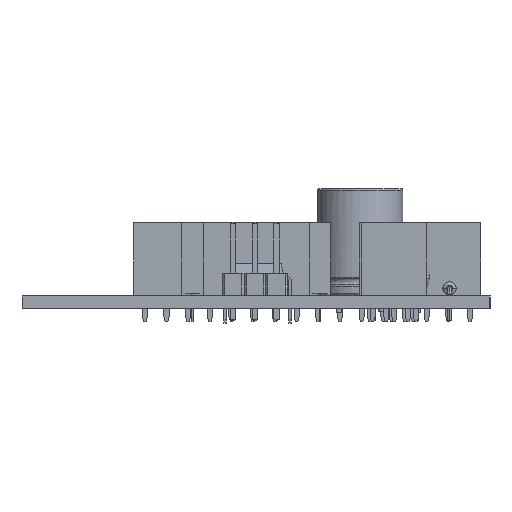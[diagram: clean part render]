
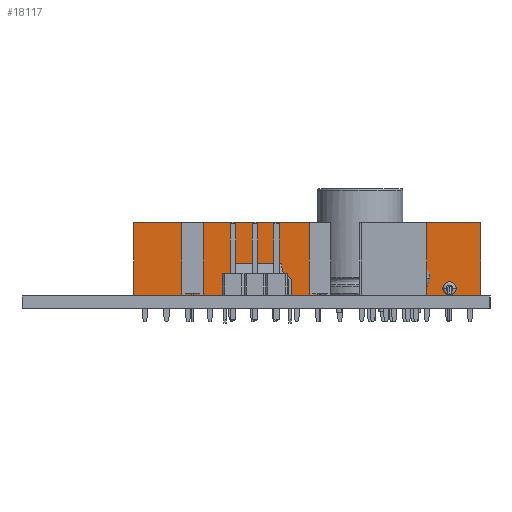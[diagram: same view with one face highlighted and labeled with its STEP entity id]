
A CAD part, left-side view. The second image highlights one B-rep face of the part: STEP entity #18117.
In plain terms, the highlighted planar face has unit normal (-1, 0, 0).
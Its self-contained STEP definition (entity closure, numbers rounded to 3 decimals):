
#158 = EDGE_CURVE ( 'NONE', #32644, #5833, #338, .T. ) ;
#338 = LINE ( 'NONE', #12416, #23090 ) ;
#1378 = VECTOR ( 'NONE', #36957, 1000. ) ;
#2709 = DIRECTION ( 'NONE',  ( 0., 0., 1. ) ) ;
#3169 = VECTOR ( 'NONE', #36461, 1000. ) ;
#5153 = CARTESIAN_POINT ( 'NONE',  ( -1.27, 1.27, 0. ) ) ;
#5833 = VERTEX_POINT ( 'NONE', #8177 ) ;
#6808 = CARTESIAN_POINT ( 'NONE',  ( -1.27, -39.37, 8.5 ) ) ;
#7598 = ORIENTED_EDGE ( 'NONE', *, *, #15676, .T. ) ;
#8177 = CARTESIAN_POINT ( 'NONE',  ( -1.27, 1.27, 8.5 ) ) ;
#8974 = AXIS2_PLACEMENT_3D ( 'NONE', #5153, #19429, #17213 ) ;
#9122 = EDGE_CURVE ( 'NONE', #5833, #14214, #20068, .T. ) ;
#11091 = VERTEX_POINT ( 'NONE', #24941 ) ;
#12416 = CARTESIAN_POINT ( 'NONE',  ( -1.27, 1.27, 0. ) ) ;
#14214 = VERTEX_POINT ( 'NONE', #6808 ) ;
#15676 = EDGE_CURVE ( 'NONE', #11091, #14214, #36252, .T. ) ;
#17213 = DIRECTION ( 'NONE',  ( 0., -1., 0. ) ) ;
#17893 = CARTESIAN_POINT ( 'NONE',  ( -1.27, 1.27, 0. ) ) ;
#18117 = ADVANCED_FACE ( 'NONE', ( #22593 ), #38003, .F. ) ;
#18128 = CARTESIAN_POINT ( 'NONE',  ( -1.27, 1.27, 0. ) ) ;
#19200 = EDGE_LOOP ( 'NONE', ( #31280, #7598, #34134, #34694 ) ) ;
#19429 = DIRECTION ( 'NONE',  ( 1., 0., 0. ) ) ;
#19872 = CARTESIAN_POINT ( 'NONE',  ( -1.27, 1.27, 8.5 ) ) ;
#20068 = LINE ( 'NONE', #19872, #1378 ) ;
#20859 = EDGE_CURVE ( 'NONE', #32644, #11091, #33167, .T. ) ;
#21218 = CARTESIAN_POINT ( 'NONE',  ( -1.27, -39.37, 0. ) ) ;
#22593 = FACE_OUTER_BOUND ( 'NONE', #19200, .T. ) ;
#23090 = VECTOR ( 'NONE', #2709, 1000. ) ;
#24941 = CARTESIAN_POINT ( 'NONE',  ( -1.27, -39.37, 0. ) ) ;
#30195 = DIRECTION ( 'NONE',  ( 0., -1., 0. ) ) ;
#31280 = ORIENTED_EDGE ( 'NONE', *, *, #20859, .T. ) ;
#32644 = VERTEX_POINT ( 'NONE', #17893 ) ;
#33167 = LINE ( 'NONE', #18128, #33752 ) ;
#33752 = VECTOR ( 'NONE', #30195, 1000. ) ;
#34134 = ORIENTED_EDGE ( 'NONE', *, *, #9122, .F. ) ;
#34694 = ORIENTED_EDGE ( 'NONE', *, *, #158, .F. ) ;
#36252 = LINE ( 'NONE', #21218, #3169 ) ;
#36461 = DIRECTION ( 'NONE',  ( 0., 0., 1. ) ) ;
#36957 = DIRECTION ( 'NONE',  ( 0., -1., 0. ) ) ;
#38003 = PLANE ( 'NONE',  #8974 ) ;
